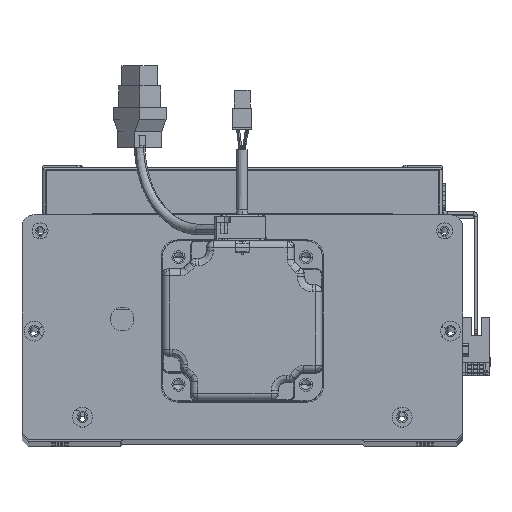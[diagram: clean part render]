
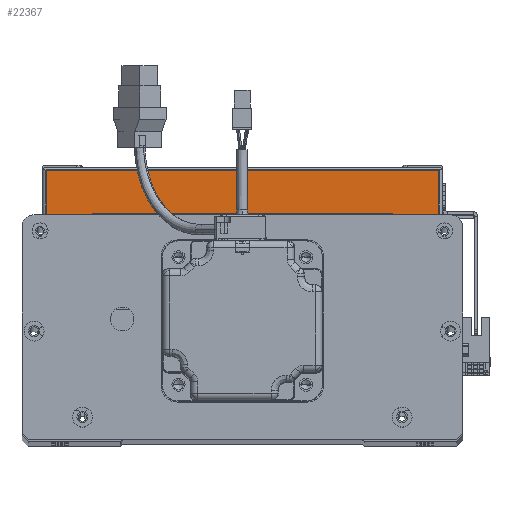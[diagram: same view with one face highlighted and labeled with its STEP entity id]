
A CAD part, top view. The second image highlights one B-rep face of the part: STEP entity #22367.
In plain terms, the highlighted planar face has unit normal (0, 0, 1) as drawn and (1, 0, 0) by its records, which use the part's own axes.
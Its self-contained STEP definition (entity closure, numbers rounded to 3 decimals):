
#3469 = AXIS2_PLACEMENT_3D ( 'NONE', #21363, #42713, #31131 ) ;
#4734 = VECTOR ( 'NONE', #47847, 1000. ) ;
#5914 = DIRECTION ( 'NONE',  ( 0., 1., 0. ) ) ;
#6163 = VERTEX_POINT ( 'NONE', #38336 ) ;
#7514 = FACE_OUTER_BOUND ( 'NONE', #45196, .T. ) ;
#7790 = VECTOR ( 'NONE', #31457, 1000. ) ;
#8724 = DIRECTION ( 'NONE',  ( 0., 0., -1. ) ) ;
#9103 = ORIENTED_EDGE ( 'NONE', *, *, #19610, .T. ) ;
#11380 = LINE ( 'NONE', #42493, #4734 ) ;
#12318 = VERTEX_POINT ( 'NONE', #44857 ) ;
#12353 = CARTESIAN_POINT ( 'NONE',  ( 150., 0., 98. ) ) ;
#19610 = EDGE_CURVE ( 'NONE', #6163, #12318, #53486, .T. ) ;
#21363 = CARTESIAN_POINT ( 'NONE',  ( 150., 23.5, -100. ) ) ;
#21480 = LINE ( 'NONE', #30743, #39649 ) ;
#22367 = ADVANCED_FACE ( 'NONE', ( #7514 ), #30220, .F. ) ;
#23108 = CARTESIAN_POINT ( 'NONE',  ( 150., 22.5, 98. ) ) ;
#23249 = VERTEX_POINT ( 'NONE', #23108 ) ;
#26345 = CARTESIAN_POINT ( 'NONE',  ( 150., 23.5, -98. ) ) ;
#29373 = VECTOR ( 'NONE', #5914, 1000. ) ;
#30220 = PLANE ( 'NONE',  #3469 ) ;
#30743 = CARTESIAN_POINT ( 'NONE',  ( 150., 0., -100. ) ) ;
#31131 = DIRECTION ( 'NONE',  ( 0., 0., 1. ) ) ;
#31457 = DIRECTION ( 'NONE',  ( 0., 0., 1. ) ) ;
#32193 = ORIENTED_EDGE ( 'NONE', *, *, #51618, .T. ) ;
#37668 = LINE ( 'NONE', #41902, #7790 ) ;
#38336 = CARTESIAN_POINT ( 'NONE',  ( 150., 0., -98. ) ) ;
#39649 = VECTOR ( 'NONE', #8724, 1000. ) ;
#41902 = CARTESIAN_POINT ( 'NONE',  ( 150., 22.5, 98. ) ) ;
#42493 = CARTESIAN_POINT ( 'NONE',  ( 150., 23.5, 98. ) ) ;
#42713 = DIRECTION ( 'NONE',  ( -1., 0., 0. ) ) ;
#44857 = CARTESIAN_POINT ( 'NONE',  ( 150., 22.5, -98. ) ) ;
#45196 = EDGE_LOOP ( 'NONE', ( #9103, #57876, #54973, #32193 ) ) ;
#47847 = DIRECTION ( 'NONE',  ( 0., -1., 0. ) ) ;
#51618 = EDGE_CURVE ( 'NONE', #58717, #6163, #21480, .T. ) ;
#52450 = EDGE_CURVE ( 'NONE', #23249, #58717, #11380, .T. ) ;
#53486 = LINE ( 'NONE', #26345, #29373 ) ;
#54973 = ORIENTED_EDGE ( 'NONE', *, *, #52450, .T. ) ;
#57876 = ORIENTED_EDGE ( 'NONE', *, *, #66477, .T. ) ;
#58717 = VERTEX_POINT ( 'NONE', #12353 ) ;
#66477 = EDGE_CURVE ( 'NONE', #12318, #23249, #37668, .T. ) ;
